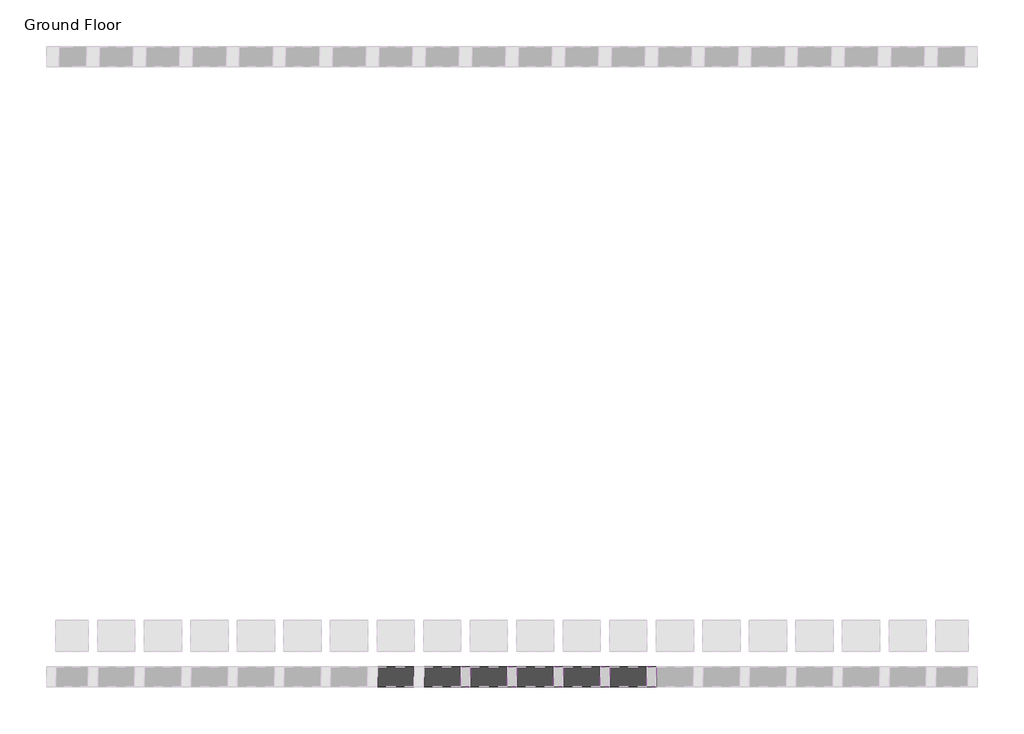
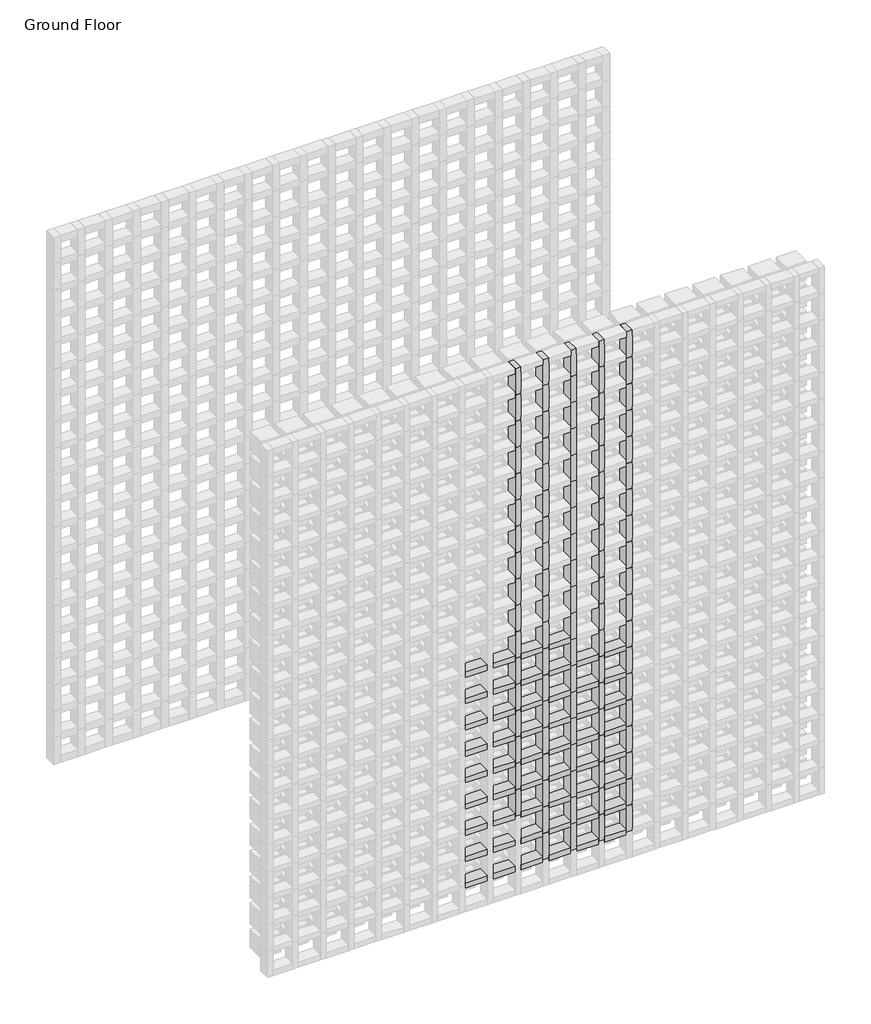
# One storey, part 78 of 350: 145 members.
"""IFC4 building model written with IfcOpenShell, lengths in millimetres."""

from ifc_helpers import new_model, si_unit, origin, place, context, project, spatial, transform, mapped, element, save
from components import rectangular_mullion_5b501421, rectangular_mullion_f28dea33

model = new_model("IFC4")

# Units and contexts
model_context = context("Model", 3, world=origin())
ifc_project = project(units=[si_unit("LENGTHUNIT", "METRE", prefix="MILLI")], contexts=[model_context])

# Site, building, storey
site = spatial("IfcSite", under=ifc_project)
building = spatial("IfcBuilding", under=site)
storey = spatial("IfcBuildingStorey", under=building, Name="Ground Floor", Elevation=0.0)

# Members
placement = place(None, origin())
rectangular_mullion_shape = rectangular_mullion_5b501421(model_context)
element("IfcMember", 1, ObjectType="Rectangular Mullion : Batten_Timber_Modinex_Austratus_Grid_Fascia_30x65_Ironbark", at=placement, inside=storey, context=model_context, shape_type="MappedRepresentation", body=[
    mapped(rectangular_mullion_shape, transform((15266.4361642, 38968.2978302, 450.0), x_axis=(1.0, 0.0, 0.0), y_axis=(0.0, -1.0, 0.0), z_axis=(0.0, 0.0, -1.0))),
])
element("IfcMember", 2, ObjectType="Rectangular Mullion : Batten_Timber_Modinex_Austratus_Grid_Fascia_30x65_Ironbark", at=placement, inside=storey, context=model_context, shape_type="MappedRepresentation", body=[
    mapped(rectangular_mullion_shape, transform((15266.4361642, 38968.2978302, 600.0), x_axis=(1.0, 0.0, 0.0), y_axis=(0.0, -1.0, 0.0), z_axis=(0.0, 0.0, -1.0))),
])
element("IfcMember", 3, ObjectType="Rectangular Mullion : Batten_Timber_Modinex_Austratus_Grid_Fascia_30x65_Ironbark", at=placement, inside=storey, context=model_context, shape_type="MappedRepresentation", body=[
    mapped(rectangular_mullion_shape, transform((15266.4361642, 38968.2978302, 750.0), x_axis=(1.0, 0.0, 0.0), y_axis=(0.0, -1.0, 0.0), z_axis=(0.0, 0.0, -1.0))),
])
element("IfcMember", 4, ObjectType="Rectangular Mullion : Batten_Timber_Modinex_Austratus_Grid_Fascia_30x65_Ironbark", at=placement, inside=storey, context=model_context, shape_type="MappedRepresentation", body=[
    mapped(rectangular_mullion_shape, transform((15266.4361642, 38968.2978302, 900.0), x_axis=(1.0, 0.0, 0.0), y_axis=(0.0, -1.0, 0.0), z_axis=(0.0, 0.0, -1.0))),
])
element("IfcMember", 5, ObjectType="Rectangular Mullion : Batten_Timber_Modinex_Austratus_Grid_Fascia_30x65_Ironbark", at=placement, inside=storey, context=model_context, shape_type="MappedRepresentation", body=[
    mapped(rectangular_mullion_shape, transform((15266.4361642, 38968.2978302, 1050.0), x_axis=(1.0, 0.0, 0.0), y_axis=(0.0, -1.0, 0.0), z_axis=(0.0, 0.0, -1.0))),
])
element("IfcMember", 6, ObjectType="Rectangular Mullion : Batten_Timber_Modinex_Austratus_Grid_Fascia_30x65_Ironbark", at=placement, inside=storey, context=model_context, shape_type="MappedRepresentation", body=[
    mapped(rectangular_mullion_shape, transform((15266.4361642, 38968.2978302, 1200.0), x_axis=(1.0, 0.0, 0.0), y_axis=(0.0, -1.0, 0.0), z_axis=(0.0, 0.0, -1.0))),
])
element("IfcMember", 7, ObjectType="Rectangular Mullion : Batten_Timber_Modinex_Austratus_Grid_Fascia_30x65_Ironbark", at=placement, inside=storey, context=model_context, shape_type="MappedRepresentation", body=[
    mapped(rectangular_mullion_shape, transform((15266.4361642, 38968.2978302, 1350.0), x_axis=(1.0, 0.0, 0.0), y_axis=(0.0, -1.0, 0.0), z_axis=(0.0, 0.0, -1.0))),
])
element("IfcMember", 8, ObjectType="Rectangular Mullion : Batten_Timber_Modinex_Austratus_Grid_Fascia_30x65_Ironbark", at=placement, inside=storey, context=model_context, shape_type="MappedRepresentation", body=[
    mapped(rectangular_mullion_shape, transform((15266.4361642, 38968.2978302, 1500.0), x_axis=(1.0, 0.0, 0.0), y_axis=(0.0, -1.0, 0.0), z_axis=(0.0, 0.0, -1.0))),
])
element("IfcMember", 9, ObjectType="Rectangular Mullion : Batten_Timber_Modinex_Austratus_Grid_Fascia_30x65_Ironbark", at=placement, inside=storey, context=model_context, shape_type="MappedRepresentation", body=[
    mapped(rectangular_mullion_shape, transform((15266.4361642, 38968.2978302, 1650.0), x_axis=(1.0, 0.0, 0.0), y_axis=(0.0, -1.0, 0.0), z_axis=(0.0, 0.0, -1.0))),
])
element("IfcMember", 10, ObjectType="Rectangular Mullion : Batten_Timber_Modinex_Austratus_Grid_Fascia_30x65_Ironbark", at=placement, inside=storey, context=model_context, shape_type="MappedRepresentation", body=[
    mapped(rectangular_mullion_shape, transform((15266.4361642, 38968.2978302, 1800.0), x_axis=(1.0, 0.0, 0.0), y_axis=(0.0, -1.0, 0.0), z_axis=(0.0, 0.0, -1.0))),
])
element("IfcMember", 11, ObjectType="Rectangular Mullion : Batten_Timber_Modinex_Austratus_Grid_Fascia_30x65_Ironbark", at=placement, inside=storey, context=model_context, shape_type="MappedRepresentation", body=[
    mapped(rectangular_mullion_shape, transform((15266.4361642, 38968.2978302, 1950.0), x_axis=(1.0, 0.0, 0.0), y_axis=(0.0, -1.0, 0.0), z_axis=(0.0, 0.0, -1.0))),
])
element("IfcMember", 12, ObjectType="Rectangular Mullion : Batten_Timber_Modinex_Austratus_Grid_Fascia_30x65_Ironbark", at=placement, inside=storey, context=model_context, shape_type="MappedRepresentation", body=[
    mapped(rectangular_mullion_shape, transform((15266.4361642, 38968.2978302, 2100.0), x_axis=(1.0, 0.0, 0.0), y_axis=(0.0, -1.0, 0.0), z_axis=(0.0, 0.0, -1.0))),
])
element("IfcMember", 13, ObjectType="Rectangular Mullion : Batten_Timber_Modinex_Austratus_Grid_Fascia_30x65_Ironbark", at=placement, inside=storey, context=model_context, shape_type="MappedRepresentation", body=[
    mapped(rectangular_mullion_shape, transform((15266.4361642, 38968.2978302, 2250.0), x_axis=(1.0, 0.0, 0.0), y_axis=(0.0, -1.0, 0.0), z_axis=(0.0, 0.0, -1.0))),
])
element("IfcMember", 14, ObjectType="Rectangular Mullion : Batten_Timber_Modinex_Austratus_Grid_Fascia_30x65_Ironbark", at=placement, inside=storey, context=model_context, shape_type="MappedRepresentation", body=[
    mapped(rectangular_mullion_shape, transform((15266.4361642, 38968.2978302, 2400.0), x_axis=(1.0, 0.0, 0.0), y_axis=(0.0, -1.0, 0.0), z_axis=(0.0, 0.0, -1.0))),
])
element("IfcMember", 15, ObjectType="Rectangular Mullion : Batten_Timber_Modinex_Austratus_Grid_Fascia_30x65_Ironbark", at=placement, inside=storey, context=model_context, shape_type="MappedRepresentation", body=[
    mapped(rectangular_mullion_shape, transform((15266.4361642, 38968.2978302, 2550.0), x_axis=(1.0, 0.0, 0.0), y_axis=(0.0, -1.0, 0.0), z_axis=(0.0, 0.0, -1.0))),
])
element("IfcMember", 16, ObjectType="Rectangular Mullion : Batten_Timber_Modinex_Austratus_Grid_Fascia_30x65_Ironbark", at=placement, inside=storey, context=model_context, shape_type="MappedRepresentation", body=[
    mapped(rectangular_mullion_shape, transform((15266.4361642, 38968.2978302, 2700.0), x_axis=(1.0, 0.0, 0.0), y_axis=(0.0, -1.0, 0.0), z_axis=(0.0, 0.0, -1.0))),
])
element("IfcMember", 17, ObjectType="Rectangular Mullion : Batten_Timber_Modinex_Austratus_Grid_Fascia_30x65_Ironbark", at=placement, inside=storey, context=model_context, shape_type="MappedRepresentation", body=[
    mapped(rectangular_mullion_shape, transform((15416.4361642, 38968.2978302, 150.0), x_axis=(1.0, 0.0, 0.0), y_axis=(0.0, -1.0, 0.0), z_axis=(0.0, 0.0, -1.0))),
])
element("IfcMember", 18, ObjectType="Rectangular Mullion : Batten_Timber_Modinex_Austratus_Grid_Fascia_30x65_Ironbark", at=placement, inside=storey, context=model_context, shape_type="MappedRepresentation", body=[
    mapped(rectangular_mullion_shape, transform((15416.4361642, 38968.2978302, 300.0), x_axis=(1.0, 0.0, 0.0), y_axis=(0.0, -1.0, 0.0), z_axis=(0.0, 0.0, -1.0))),
])
element("IfcMember", 19, ObjectType="Rectangular Mullion : Batten_Timber_Modinex_Austratus_Grid_Fascia_30x65_Ironbark", at=placement, inside=storey, context=model_context, shape_type="MappedRepresentation", body=[
    mapped(rectangular_mullion_shape, transform((15416.4361642, 38968.2978302, 450.0), x_axis=(1.0, 0.0, 0.0), y_axis=(0.0, -1.0, 0.0), z_axis=(0.0, 0.0, -1.0))),
])
element("IfcMember", 20, ObjectType="Rectangular Mullion : Batten_Timber_Modinex_Austratus_Grid_Fascia_30x65_Ironbark", at=placement, inside=storey, context=model_context, shape_type="MappedRepresentation", body=[
    mapped(rectangular_mullion_shape, transform((15416.4361642, 38968.2978302, 600.0), x_axis=(1.0, 0.0, 0.0), y_axis=(0.0, -1.0, 0.0), z_axis=(0.0, 0.0, -1.0))),
])
element("IfcMember", 21, ObjectType="Rectangular Mullion : Batten_Timber_Modinex_Austratus_Grid_Fascia_30x65_Ironbark", at=placement, inside=storey, context=model_context, shape_type="MappedRepresentation", body=[
    mapped(rectangular_mullion_shape, transform((15416.4361642, 38968.2978302, 750.0), x_axis=(1.0, 0.0, 0.0), y_axis=(0.0, -1.0, 0.0), z_axis=(0.0, 0.0, -1.0))),
])
element("IfcMember", 22, ObjectType="Rectangular Mullion : Batten_Timber_Modinex_Austratus_Grid_Fascia_30x65_Ironbark", at=placement, inside=storey, context=model_context, shape_type="MappedRepresentation", body=[
    mapped(rectangular_mullion_shape, transform((15416.4361642, 38968.2978302, 900.0), x_axis=(1.0, 0.0, 0.0), y_axis=(0.0, -1.0, 0.0), z_axis=(0.0, 0.0, -1.0))),
])
element("IfcMember", 23, ObjectType="Rectangular Mullion : Batten_Timber_Modinex_Austratus_Grid_Fascia_30x65_Ironbark", at=placement, inside=storey, context=model_context, shape_type="MappedRepresentation", body=[
    mapped(rectangular_mullion_shape, transform((15416.4361642, 38968.2978302, 1050.0), x_axis=(1.0, 0.0, 0.0), y_axis=(0.0, -1.0, 0.0), z_axis=(0.0, 0.0, -1.0))),
])
element("IfcMember", 24, ObjectType="Rectangular Mullion : Batten_Timber_Modinex_Austratus_Grid_Fascia_30x65_Ironbark", at=placement, inside=storey, context=model_context, shape_type="MappedRepresentation", body=[
    mapped(rectangular_mullion_shape, transform((15416.4361642, 38968.2978302, 1200.0), x_axis=(1.0, 0.0, 0.0), y_axis=(0.0, -1.0, 0.0), z_axis=(0.0, 0.0, -1.0))),
])
element("IfcMember", 25, ObjectType="Rectangular Mullion : Batten_Timber_Modinex_Austratus_Grid_Fascia_30x65_Ironbark", at=placement, inside=storey, context=model_context, shape_type="MappedRepresentation", body=[
    mapped(rectangular_mullion_shape, transform((15416.4361642, 38968.2978302, 1350.0), x_axis=(1.0, 0.0, 0.0), y_axis=(0.0, -1.0, 0.0), z_axis=(0.0, 0.0, -1.0))),
])
element("IfcMember", 26, ObjectType="Rectangular Mullion : Batten_Timber_Modinex_Austratus_Grid_Fascia_30x65_Ironbark", at=placement, inside=storey, context=model_context, shape_type="MappedRepresentation", body=[
    mapped(rectangular_mullion_shape, transform((15416.4361642, 38968.2978302, 1500.0), x_axis=(1.0, 0.0, 0.0), y_axis=(0.0, -1.0, 0.0), z_axis=(0.0, 0.0, -1.0))),
])
element("IfcMember", 27, ObjectType="Rectangular Mullion : Batten_Timber_Modinex_Austratus_Grid_Fascia_30x65_Ironbark", at=placement, inside=storey, context=model_context, shape_type="MappedRepresentation", body=[
    mapped(rectangular_mullion_shape, transform((15416.4361642, 38968.2978302, 1650.0), x_axis=(1.0, 0.0, 0.0), y_axis=(0.0, -1.0, 0.0), z_axis=(0.0, 0.0, -1.0))),
])
element("IfcMember", 28, ObjectType="Rectangular Mullion : Batten_Timber_Modinex_Austratus_Grid_Fascia_30x65_Ironbark", at=placement, inside=storey, context=model_context, shape_type="MappedRepresentation", body=[
    mapped(rectangular_mullion_shape, transform((15416.4361642, 38968.2978302, 1800.0), x_axis=(1.0, 0.0, 0.0), y_axis=(0.0, -1.0, 0.0), z_axis=(0.0, 0.0, -1.0))),
])
element("IfcMember", 29, ObjectType="Rectangular Mullion : Batten_Timber_Modinex_Austratus_Grid_Fascia_30x65_Ironbark", at=placement, inside=storey, context=model_context, shape_type="MappedRepresentation", body=[
    mapped(rectangular_mullion_shape, transform((15416.4361642, 38968.2978302, 1950.0), x_axis=(1.0, 0.0, 0.0), y_axis=(0.0, -1.0, 0.0), z_axis=(0.0, 0.0, -1.0))),
])
element("IfcMember", 30, ObjectType="Rectangular Mullion : Batten_Timber_Modinex_Austratus_Grid_Fascia_30x65_Ironbark", at=placement, inside=storey, context=model_context, shape_type="MappedRepresentation", body=[
    mapped(rectangular_mullion_shape, transform((15416.4361642, 38968.2978302, 2100.0), x_axis=(1.0, 0.0, 0.0), y_axis=(0.0, -1.0, 0.0), z_axis=(0.0, 0.0, -1.0))),
])
element("IfcMember", 31, ObjectType="Rectangular Mullion : Batten_Timber_Modinex_Austratus_Grid_Fascia_30x65_Ironbark", at=placement, inside=storey, context=model_context, shape_type="MappedRepresentation", body=[
    mapped(rectangular_mullion_shape, transform((15416.4361642, 38968.2978302, 2250.0), x_axis=(1.0, 0.0, 0.0), y_axis=(0.0, -1.0, 0.0), z_axis=(0.0, 0.0, -1.0))),
])
element("IfcMember", 32, ObjectType="Rectangular Mullion : Batten_Timber_Modinex_Austratus_Grid_Fascia_30x65_Ironbark", at=placement, inside=storey, context=model_context, shape_type="MappedRepresentation", body=[
    mapped(rectangular_mullion_shape, transform((15416.4361642, 38968.2978302, 2400.0), x_axis=(1.0, 0.0, 0.0), y_axis=(0.0, -1.0, 0.0), z_axis=(0.0, 0.0, -1.0))),
])
element("IfcMember", 33, ObjectType="Rectangular Mullion : Batten_Timber_Modinex_Austratus_Grid_Fascia_30x65_Ironbark", at=placement, inside=storey, context=model_context, shape_type="MappedRepresentation", body=[
    mapped(rectangular_mullion_shape, transform((15416.4361642, 38968.2978302, 2550.0), x_axis=(1.0, 0.0, 0.0), y_axis=(0.0, -1.0, 0.0), z_axis=(0.0, 0.0, -1.0))),
])
element("IfcMember", 34, ObjectType="Rectangular Mullion : Batten_Timber_Modinex_Austratus_Grid_Fascia_30x65_Ironbark", at=placement, inside=storey, context=model_context, shape_type="MappedRepresentation", body=[
    mapped(rectangular_mullion_shape, transform((15416.4361642, 38968.2978302, 2700.0), x_axis=(1.0, 0.0, 0.0), y_axis=(0.0, -1.0, 0.0), z_axis=(0.0, 0.0, -1.0))),
])
element("IfcMember", 35, ObjectType="Rectangular Mullion : Batten_Timber_Modinex_Austratus_Grid_Fascia_30x65_Ironbark", at=placement, inside=storey, context=model_context, shape_type="MappedRepresentation", body=[
    mapped(rectangular_mullion_shape, transform((15566.4361642, 38968.2978302, 150.0), x_axis=(1.0, 0.0, 0.0), y_axis=(0.0, -1.0, 0.0), z_axis=(0.0, 0.0, -1.0))),
])
element("IfcMember", 36, ObjectType="Rectangular Mullion : Batten_Timber_Modinex_Austratus_Grid_Fascia_30x65_Ironbark", at=placement, inside=storey, context=model_context, shape_type="MappedRepresentation", body=[
    mapped(rectangular_mullion_shape, transform((15566.4361642, 38968.2978302, 300.0), x_axis=(1.0, 0.0, 0.0), y_axis=(0.0, -1.0, 0.0), z_axis=(0.0, 0.0, -1.0))),
])
element("IfcMember", 37, ObjectType="Rectangular Mullion : Batten_Timber_Modinex_Austratus_Grid_Fascia_30x65_Ironbark", at=placement, inside=storey, context=model_context, shape_type="MappedRepresentation", body=[
    mapped(rectangular_mullion_shape, transform((15566.4361642, 38968.2978302, 450.0), x_axis=(1.0, 0.0, 0.0), y_axis=(0.0, -1.0, 0.0), z_axis=(0.0, 0.0, -1.0))),
])
element("IfcMember", 38, ObjectType="Rectangular Mullion : Batten_Timber_Modinex_Austratus_Grid_Fascia_30x65_Ironbark", at=placement, inside=storey, context=model_context, shape_type="MappedRepresentation", body=[
    mapped(rectangular_mullion_shape, transform((15566.4361642, 38968.2978302, 600.0), x_axis=(1.0, 0.0, 0.0), y_axis=(0.0, -1.0, 0.0), z_axis=(0.0, 0.0, -1.0))),
])
element("IfcMember", 39, ObjectType="Rectangular Mullion : Batten_Timber_Modinex_Austratus_Grid_Fascia_30x65_Ironbark", at=placement, inside=storey, context=model_context, shape_type="MappedRepresentation", body=[
    mapped(rectangular_mullion_shape, transform((15566.4361642, 38968.2978302, 750.0), x_axis=(1.0, 0.0, 0.0), y_axis=(0.0, -1.0, 0.0), z_axis=(0.0, 0.0, -1.0))),
])
element("IfcMember", 40, ObjectType="Rectangular Mullion : Batten_Timber_Modinex_Austratus_Grid_Fascia_30x65_Ironbark", at=placement, inside=storey, context=model_context, shape_type="MappedRepresentation", body=[
    mapped(rectangular_mullion_shape, transform((15566.4361642, 38968.2978302, 900.0), x_axis=(1.0, 0.0, 0.0), y_axis=(0.0, -1.0, 0.0), z_axis=(0.0, 0.0, -1.0))),
])
element("IfcMember", 41, ObjectType="Rectangular Mullion : Batten_Timber_Modinex_Austratus_Grid_Fascia_30x65_Ironbark", at=placement, inside=storey, context=model_context, shape_type="MappedRepresentation", body=[
    mapped(rectangular_mullion_shape, transform((15566.4361642, 38968.2978302, 1050.0), x_axis=(1.0, 0.0, 0.0), y_axis=(0.0, -1.0, 0.0), z_axis=(0.0, 0.0, -1.0))),
])
element("IfcMember", 42, ObjectType="Rectangular Mullion : Batten_Timber_Modinex_Austratus_Grid_Fascia_30x65_Ironbark", at=placement, inside=storey, context=model_context, shape_type="MappedRepresentation", body=[
    mapped(rectangular_mullion_shape, transform((15566.4361642, 38968.2978302, 1200.0), x_axis=(1.0, 0.0, 0.0), y_axis=(0.0, -1.0, 0.0), z_axis=(0.0, 0.0, -1.0))),
])
element("IfcMember", 43, ObjectType="Rectangular Mullion : Batten_Timber_Modinex_Austratus_Grid_Fascia_30x65_Ironbark", at=placement, inside=storey, context=model_context, shape_type="MappedRepresentation", body=[
    mapped(rectangular_mullion_shape, transform((15566.4361642, 38968.2978302, 1350.0), x_axis=(1.0, 0.0, 0.0), y_axis=(0.0, -1.0, 0.0), z_axis=(0.0, 0.0, -1.0))),
])
element("IfcMember", 44, ObjectType="Rectangular Mullion : Batten_Timber_Modinex_Austratus_Grid_Fascia_30x65_Ironbark", at=placement, inside=storey, context=model_context, shape_type="MappedRepresentation", body=[
    mapped(rectangular_mullion_shape, transform((15566.4361642, 38968.2978302, 1500.0), x_axis=(1.0, 0.0, 0.0), y_axis=(0.0, -1.0, 0.0), z_axis=(0.0, 0.0, -1.0))),
])
element("IfcMember", 45, ObjectType="Rectangular Mullion : Batten_Timber_Modinex_Austratus_Grid_Fascia_30x65_Ironbark", at=placement, inside=storey, context=model_context, shape_type="MappedRepresentation", body=[
    mapped(rectangular_mullion_shape, transform((15566.4361642, 38968.2978302, 1650.0), x_axis=(1.0, 0.0, 0.0), y_axis=(0.0, -1.0, 0.0), z_axis=(0.0, 0.0, -1.0))),
])
element("IfcMember", 46, ObjectType="Rectangular Mullion : Batten_Timber_Modinex_Austratus_Grid_Fascia_30x65_Ironbark", at=placement, inside=storey, context=model_context, shape_type="MappedRepresentation", body=[
    mapped(rectangular_mullion_shape, transform((15566.4361642, 38968.2978302, 1800.0), x_axis=(1.0, 0.0, 0.0), y_axis=(0.0, -1.0, 0.0), z_axis=(0.0, 0.0, -1.0))),
])
element("IfcMember", 47, ObjectType="Rectangular Mullion : Batten_Timber_Modinex_Austratus_Grid_Fascia_30x65_Ironbark", at=placement, inside=storey, context=model_context, shape_type="MappedRepresentation", body=[
    mapped(rectangular_mullion_shape, transform((15566.4361642, 38968.2978302, 1950.0), x_axis=(1.0, 0.0, 0.0), y_axis=(0.0, -1.0, 0.0), z_axis=(0.0, 0.0, -1.0))),
])
element("IfcMember", 48, ObjectType="Rectangular Mullion : Batten_Timber_Modinex_Austratus_Grid_Fascia_30x65_Ironbark", at=placement, inside=storey, context=model_context, shape_type="MappedRepresentation", body=[
    mapped(rectangular_mullion_shape, transform((15566.4361642, 38968.2978302, 2100.0), x_axis=(1.0, 0.0, 0.0), y_axis=(0.0, -1.0, 0.0), z_axis=(0.0, 0.0, -1.0))),
])
element("IfcMember", 49, ObjectType="Rectangular Mullion : Batten_Timber_Modinex_Austratus_Grid_Fascia_30x65_Ironbark", at=placement, inside=storey, context=model_context, shape_type="MappedRepresentation", body=[
    mapped(rectangular_mullion_shape, transform((15566.4361642, 38968.2978302, 2250.0), x_axis=(1.0, 0.0, 0.0), y_axis=(0.0, -1.0, 0.0), z_axis=(0.0, 0.0, -1.0))),
])
element("IfcMember", 50, ObjectType="Rectangular Mullion : Batten_Timber_Modinex_Austratus_Grid_Fascia_30x65_Ironbark", at=placement, inside=storey, context=model_context, shape_type="MappedRepresentation", body=[
    mapped(rectangular_mullion_shape, transform((15566.4361642, 38968.2978302, 2400.0), x_axis=(1.0, 0.0, 0.0), y_axis=(0.0, -1.0, 0.0), z_axis=(0.0, 0.0, -1.0))),
])
element("IfcMember", 51, ObjectType="Rectangular Mullion : Batten_Timber_Modinex_Austratus_Grid_Fascia_30x65_Ironbark", at=placement, inside=storey, context=model_context, shape_type="MappedRepresentation", body=[
    mapped(rectangular_mullion_shape, transform((15566.4361642, 38968.2978302, 2550.0), x_axis=(1.0, 0.0, 0.0), y_axis=(0.0, -1.0, 0.0), z_axis=(0.0, 0.0, -1.0))),
])
element("IfcMember", 52, ObjectType="Rectangular Mullion : Batten_Timber_Modinex_Austratus_Grid_Fascia_30x65_Ironbark", at=placement, inside=storey, context=model_context, shape_type="MappedRepresentation", body=[
    mapped(rectangular_mullion_shape, transform((15566.4361642, 38968.2978302, 2700.0), x_axis=(1.0, 0.0, 0.0), y_axis=(0.0, -1.0, 0.0), z_axis=(0.0, 0.0, -1.0))),
])
element("IfcMember", 53, ObjectType="Rectangular Mullion : Batten_Timber_Modinex_Austratus_Grid_Fascia_30x65_Ironbark", at=placement, inside=storey, context=model_context, shape_type="MappedRepresentation", body=[
    mapped(rectangular_mullion_shape, transform((15716.4361642, 38968.2978302, 150.0), x_axis=(1.0, 0.0, 0.0), y_axis=(0.0, -1.0, 0.0), z_axis=(0.0, 0.0, -1.0))),
])
element("IfcMember", 54, ObjectType="Rectangular Mullion : Batten_Timber_Modinex_Austratus_Grid_Fascia_30x65_Ironbark", at=placement, inside=storey, context=model_context, shape_type="MappedRepresentation", body=[
    mapped(rectangular_mullion_shape, transform((15716.4361642, 38968.2978302, 300.0), x_axis=(1.0, 0.0, 0.0), y_axis=(0.0, -1.0, 0.0), z_axis=(0.0, 0.0, -1.0))),
])
element("IfcMember", 55, ObjectType="Rectangular Mullion : Batten_Timber_Modinex_Austratus_Grid_Fascia_30x65_Ironbark", at=placement, inside=storey, context=model_context, shape_type="MappedRepresentation", body=[
    mapped(rectangular_mullion_shape, transform((15716.4361642, 38968.2978302, 450.0), x_axis=(1.0, 0.0, 0.0), y_axis=(0.0, -1.0, 0.0), z_axis=(0.0, 0.0, -1.0))),
])
element("IfcMember", 56, ObjectType="Rectangular Mullion : Batten_Timber_Modinex_Austratus_Grid_Fascia_30x65_Ironbark", at=placement, inside=storey, context=model_context, shape_type="MappedRepresentation", body=[
    mapped(rectangular_mullion_shape, transform((15716.4361642, 38968.2978302, 600.0), x_axis=(1.0, 0.0, 0.0), y_axis=(0.0, -1.0, 0.0), z_axis=(0.0, 0.0, -1.0))),
])
element("IfcMember", 57, ObjectType="Rectangular Mullion : Batten_Timber_Modinex_Austratus_Grid_Fascia_30x65_Ironbark", at=placement, inside=storey, context=model_context, shape_type="MappedRepresentation", body=[
    mapped(rectangular_mullion_shape, transform((15716.4361642, 38968.2978302, 750.0), x_axis=(1.0, 0.0, 0.0), y_axis=(0.0, -1.0, 0.0), z_axis=(0.0, 0.0, -1.0))),
])
element("IfcMember", 58, ObjectType="Rectangular Mullion : Batten_Timber_Modinex_Austratus_Grid_Fascia_30x65_Ironbark", at=placement, inside=storey, context=model_context, shape_type="MappedRepresentation", body=[
    mapped(rectangular_mullion_shape, transform((15716.4361642, 38968.2978302, 900.0), x_axis=(1.0, 0.0, 0.0), y_axis=(0.0, -1.0, 0.0), z_axis=(0.0, 0.0, -1.0))),
])
element("IfcMember", 59, ObjectType="Rectangular Mullion : Batten_Timber_Modinex_Austratus_Grid_Fascia_30x65_Ironbark", at=placement, inside=storey, context=model_context, shape_type="MappedRepresentation", body=[
    mapped(rectangular_mullion_shape, transform((15716.4361642, 38968.2978302, 1050.0), x_axis=(1.0, 0.0, 0.0), y_axis=(0.0, -1.0, 0.0), z_axis=(0.0, 0.0, -1.0))),
])
element("IfcMember", 60, ObjectType="Rectangular Mullion : Batten_Timber_Modinex_Austratus_Grid_Fascia_30x65_Ironbark", at=placement, inside=storey, context=model_context, shape_type="MappedRepresentation", body=[
    mapped(rectangular_mullion_shape, transform((15716.4361642, 38968.2978302, 1200.0), x_axis=(1.0, 0.0, 0.0), y_axis=(0.0, -1.0, 0.0), z_axis=(0.0, 0.0, -1.0))),
])
element("IfcMember", 61, ObjectType="Rectangular Mullion : Batten_Timber_Modinex_Austratus_Grid_Fascia_30x65_Ironbark", at=placement, inside=storey, context=model_context, shape_type="MappedRepresentation", body=[
    mapped(rectangular_mullion_shape, transform((15716.4361642, 38968.2978302, 1350.0), x_axis=(1.0, 0.0, 0.0), y_axis=(0.0, -1.0, 0.0), z_axis=(0.0, 0.0, -1.0))),
])
element("IfcMember", 62, ObjectType="Rectangular Mullion : Batten_Timber_Modinex_Austratus_Grid_Fascia_30x65_Ironbark", at=placement, inside=storey, context=model_context, shape_type="MappedRepresentation", body=[
    mapped(rectangular_mullion_shape, transform((15716.4361642, 38968.2978302, 1500.0), x_axis=(1.0, 0.0, 0.0), y_axis=(0.0, -1.0, 0.0), z_axis=(0.0, 0.0, -1.0))),
])
element("IfcMember", 63, ObjectType="Rectangular Mullion : Batten_Timber_Modinex_Austratus_Grid_Fascia_30x65_Ironbark", at=placement, inside=storey, context=model_context, shape_type="MappedRepresentation", body=[
    mapped(rectangular_mullion_shape, transform((15716.4361642, 38968.2978302, 1650.0), x_axis=(1.0, 0.0, 0.0), y_axis=(0.0, -1.0, 0.0), z_axis=(0.0, 0.0, -1.0))),
])
element("IfcMember", 64, ObjectType="Rectangular Mullion : Batten_Timber_Modinex_Austratus_Grid_Fascia_30x65_Ironbark", at=placement, inside=storey, context=model_context, shape_type="MappedRepresentation", body=[
    mapped(rectangular_mullion_shape, transform((15716.4361642, 38968.2978302, 1800.0), x_axis=(1.0, 0.0, 0.0), y_axis=(0.0, -1.0, 0.0), z_axis=(0.0, 0.0, -1.0))),
])
element("IfcMember", 65, ObjectType="Rectangular Mullion : Batten_Timber_Modinex_Austratus_Grid_Fascia_30x65_Ironbark", at=placement, inside=storey, context=model_context, shape_type="MappedRepresentation", body=[
    mapped(rectangular_mullion_shape, transform((15716.4361642, 38968.2978302, 1950.0), x_axis=(1.0, 0.0, 0.0), y_axis=(0.0, -1.0, 0.0), z_axis=(0.0, 0.0, -1.0))),
])
element("IfcMember", 66, ObjectType="Rectangular Mullion : Batten_Timber_Modinex_Austratus_Grid_Fascia_30x65_Ironbark", at=placement, inside=storey, context=model_context, shape_type="MappedRepresentation", body=[
    mapped(rectangular_mullion_shape, transform((15716.4361642, 38968.2978302, 2100.0), x_axis=(1.0, 0.0, 0.0), y_axis=(0.0, -1.0, 0.0), z_axis=(0.0, 0.0, -1.0))),
])
element("IfcMember", 67, ObjectType="Rectangular Mullion : Batten_Timber_Modinex_Austratus_Grid_Fascia_30x65_Ironbark", at=placement, inside=storey, context=model_context, shape_type="MappedRepresentation", body=[
    mapped(rectangular_mullion_shape, transform((15716.4361642, 38968.2978302, 2250.0), x_axis=(1.0, 0.0, 0.0), y_axis=(0.0, -1.0, 0.0), z_axis=(0.0, 0.0, -1.0))),
])
element("IfcMember", 68, ObjectType="Rectangular Mullion : Batten_Timber_Modinex_Austratus_Grid_Fascia_30x65_Ironbark", at=placement, inside=storey, context=model_context, shape_type="MappedRepresentation", body=[
    mapped(rectangular_mullion_shape, transform((15716.4361642, 38968.2978302, 2400.0), x_axis=(1.0, 0.0, 0.0), y_axis=(0.0, -1.0, 0.0), z_axis=(0.0, 0.0, -1.0))),
])
element("IfcMember", 69, ObjectType="Rectangular Mullion : Batten_Timber_Modinex_Austratus_Grid_Fascia_30x65_Ironbark", at=placement, inside=storey, context=model_context, shape_type="MappedRepresentation", body=[
    mapped(rectangular_mullion_shape, transform((15716.4361642, 38968.2978302, 2550.0), x_axis=(1.0, 0.0, 0.0), y_axis=(0.0, -1.0, 0.0), z_axis=(0.0, 0.0, -1.0))),
])
element("IfcMember", 70, ObjectType="Rectangular Mullion : Batten_Timber_Modinex_Austratus_Grid_Fascia_30x65_Ironbark", at=placement, inside=storey, context=model_context, shape_type="MappedRepresentation", body=[
    mapped(rectangular_mullion_shape, transform((15716.4361642, 38968.2978302, 2700.0), x_axis=(1.0, 0.0, 0.0), y_axis=(0.0, -1.0, 0.0), z_axis=(0.0, 0.0, -1.0))),
])
element("IfcMember", 71, ObjectType="Rectangular Mullion : Batten_Timber_Modinex_Austratus_Grid_Fascia_30x65_Ironbark", at=placement, inside=storey, context=model_context, shape_type="MappedRepresentation", body=[
    mapped(rectangular_mullion_shape, transform((15866.4361642, 38968.2978302, 150.0), x_axis=(1.0, 0.0, 0.0), y_axis=(0.0, -1.0, 0.0), z_axis=(0.0, 0.0, -1.0))),
])
element("IfcMember", 72, ObjectType="Rectangular Mullion : Batten_Timber_Modinex_Austratus_Grid_Fascia_30x65_Ironbark", at=placement, inside=storey, context=model_context, shape_type="MappedRepresentation", body=[
    mapped(rectangular_mullion_shape, transform((15866.4361642, 38968.2978302, 300.0), x_axis=(1.0, 0.0, 0.0), y_axis=(0.0, -1.0, 0.0), z_axis=(0.0, 0.0, -1.0))),
])
element("IfcMember", 73, ObjectType="Rectangular Mullion : Batten_Timber_Modinex_Austratus_Grid_Fascia_30x65_Ironbark", at=placement, inside=storey, context=model_context, shape_type="MappedRepresentation", body=[
    mapped(rectangular_mullion_shape, transform((15866.4361642, 38968.2978302, 450.0), x_axis=(1.0, 0.0, 0.0), y_axis=(0.0, -1.0, 0.0), z_axis=(0.0, 0.0, -1.0))),
])
element("IfcMember", 74, ObjectType="Rectangular Mullion : Batten_Timber_Modinex_Austratus_Grid_Fascia_30x65_Ironbark", at=placement, inside=storey, context=model_context, shape_type="MappedRepresentation", body=[
    mapped(rectangular_mullion_shape, transform((15866.4361642, 38968.2978302, 600.0), x_axis=(1.0, 0.0, 0.0), y_axis=(0.0, -1.0, 0.0), z_axis=(0.0, 0.0, -1.0))),
])
element("IfcMember", 75, ObjectType="Rectangular Mullion : Batten_Timber_Modinex_Austratus_Grid_Fascia_30x65_Ironbark", at=placement, inside=storey, context=model_context, shape_type="MappedRepresentation", body=[
    mapped(rectangular_mullion_shape, transform((15866.4361642, 38968.2978302, 750.0), x_axis=(1.0, 0.0, 0.0), y_axis=(0.0, -1.0, 0.0), z_axis=(0.0, 0.0, -1.0))),
])
element("IfcMember", 76, ObjectType="Rectangular Mullion : Batten_Timber_Modinex_Austratus_Grid_Fascia_30x65_Ironbark", at=placement, inside=storey, context=model_context, shape_type="MappedRepresentation", body=[
    mapped(rectangular_mullion_shape, transform((15866.4361642, 38968.2978302, 900.0), x_axis=(1.0, 0.0, 0.0), y_axis=(0.0, -1.0, 0.0), z_axis=(0.0, 0.0, -1.0))),
])
element("IfcMember", 77, ObjectType="Rectangular Mullion : Batten_Timber_Modinex_Austratus_Grid_Fascia_30x65_Ironbark", at=placement, inside=storey, context=model_context, shape_type="MappedRepresentation", body=[
    mapped(rectangular_mullion_shape, transform((15866.4361642, 38968.2978302, 1050.0), x_axis=(1.0, 0.0, 0.0), y_axis=(0.0, -1.0, 0.0), z_axis=(0.0, 0.0, -1.0))),
])
element("IfcMember", 78, ObjectType="Rectangular Mullion : Batten_Timber_Modinex_Austratus_Grid_Fascia_30x65_Ironbark", at=placement, inside=storey, context=model_context, shape_type="MappedRepresentation", body=[
    mapped(rectangular_mullion_shape, transform((15866.4361642, 38968.2978302, 1200.0), x_axis=(1.0, 0.0, 0.0), y_axis=(0.0, -1.0, 0.0), z_axis=(0.0, 0.0, -1.0))),
])
element("IfcMember", 79, ObjectType="Rectangular Mullion : Batten_Timber_Modinex_Austratus_Grid_Fascia_30x65_Ironbark", at=placement, inside=storey, context=model_context, shape_type="MappedRepresentation", body=[
    mapped(rectangular_mullion_shape, transform((15866.4361642, 38968.2978302, 1350.0), x_axis=(1.0, 0.0, 0.0), y_axis=(0.0, -1.0, 0.0), z_axis=(0.0, 0.0, -1.0))),
])
element("IfcMember", 80, ObjectType="Rectangular Mullion : Batten_Timber_Modinex_Austratus_Grid_Fascia_30x65_Ironbark", at=placement, inside=storey, context=model_context, shape_type="MappedRepresentation", body=[
    mapped(rectangular_mullion_shape, transform((15866.4361642, 38968.2978302, 1500.0), x_axis=(1.0, 0.0, 0.0), y_axis=(0.0, -1.0, 0.0), z_axis=(0.0, 0.0, -1.0))),
])
element("IfcMember", 81, ObjectType="Rectangular Mullion : Batten_Timber_Modinex_Austratus_Grid_Fascia_30x65_Ironbark", at=placement, inside=storey, context=model_context, shape_type="MappedRepresentation", body=[
    mapped(rectangular_mullion_shape, transform((15866.4361642, 38968.2978302, 1650.0), x_axis=(1.0, 0.0, 0.0), y_axis=(0.0, -1.0, 0.0), z_axis=(0.0, 0.0, -1.0))),
])
element("IfcMember", 82, ObjectType="Rectangular Mullion : Batten_Timber_Modinex_Austratus_Grid_Fascia_30x65_Ironbark", at=placement, inside=storey, context=model_context, shape_type="MappedRepresentation", body=[
    mapped(rectangular_mullion_shape, transform((15866.4361642, 38968.2978302, 1800.0), x_axis=(1.0, 0.0, 0.0), y_axis=(0.0, -1.0, 0.0), z_axis=(0.0, 0.0, -1.0))),
])
element("IfcMember", 83, ObjectType="Rectangular Mullion : Batten_Timber_Modinex_Austratus_Grid_Fascia_30x65_Ironbark", at=placement, inside=storey, context=model_context, shape_type="MappedRepresentation", body=[
    mapped(rectangular_mullion_shape, transform((15866.4361642, 38968.2978302, 1950.0), x_axis=(1.0, 0.0, 0.0), y_axis=(0.0, -1.0, 0.0), z_axis=(0.0, 0.0, -1.0))),
])
element("IfcMember", 84, ObjectType="Rectangular Mullion : Batten_Timber_Modinex_Austratus_Grid_Fascia_30x65_Ironbark", at=placement, inside=storey, context=model_context, shape_type="MappedRepresentation", body=[
    mapped(rectangular_mullion_shape, transform((15866.4361642, 38968.2978302, 2100.0), x_axis=(1.0, 0.0, 0.0), y_axis=(0.0, -1.0, 0.0), z_axis=(0.0, 0.0, -1.0))),
])
element("IfcMember", 85, ObjectType="Rectangular Mullion : Batten_Timber_Modinex_Austratus_Grid_Fascia_30x65_Ironbark", at=placement, inside=storey, context=model_context, shape_type="MappedRepresentation", body=[
    mapped(rectangular_mullion_shape, transform((15866.4361642, 38968.2978302, 2250.0), x_axis=(1.0, 0.0, 0.0), y_axis=(0.0, -1.0, 0.0), z_axis=(0.0, 0.0, -1.0))),
])
element("IfcMember", 86, ObjectType="Rectangular Mullion : Batten_Timber_Modinex_Austratus_Grid_Fascia_30x65_Ironbark", at=placement, inside=storey, context=model_context, shape_type="MappedRepresentation", body=[
    mapped(rectangular_mullion_shape, transform((15866.4361642, 38968.2978302, 2400.0), x_axis=(1.0, 0.0, 0.0), y_axis=(0.0, -1.0, 0.0), z_axis=(0.0, 0.0, -1.0))),
])
element("IfcMember", 87, ObjectType="Rectangular Mullion : Batten_Timber_Modinex_Austratus_Grid_Fascia_30x65_Ironbark", at=placement, inside=storey, context=model_context, shape_type="MappedRepresentation", body=[
    mapped(rectangular_mullion_shape, transform((15866.4361642, 38968.2978302, 2550.0), x_axis=(1.0, 0.0, 0.0), y_axis=(0.0, -1.0, 0.0), z_axis=(0.0, 0.0, -1.0))),
])
element("IfcMember", 88, ObjectType="Rectangular Mullion : Batten_Timber_Modinex_Austratus_Grid_Fascia_30x65_Ironbark", at=placement, inside=storey, context=model_context, shape_type="MappedRepresentation", body=[
    mapped(rectangular_mullion_shape, transform((15866.4361642, 38968.2978302, 2700.0), x_axis=(1.0, 0.0, 0.0), y_axis=(0.0, -1.0, 0.0), z_axis=(0.0, 0.0, -1.0))),
])
element("IfcMember", 89, ObjectType="Rectangular Mullion : Batten_Timber_Modinex_Austratus_Grid_Fascia_30x65_Ironbark", at=placement, inside=storey, context=model_context, shape_type="MappedRepresentation", body=[
    mapped(rectangular_mullion_shape, transform((15266.4361642, 38968.2978302, 2850.0), x_axis=(1.0, 0.0, 0.0), y_axis=(0.0, -1.0, 0.0), z_axis=(0.0, 0.0, -1.0))),
])
element("IfcMember", 90, ObjectType="Rectangular Mullion : Batten_Timber_Modinex_Austratus_Grid_Fascia_30x65_Ironbark", at=placement, inside=storey, context=model_context, shape_type="MappedRepresentation", body=[
    mapped(rectangular_mullion_shape, transform((15416.4361642, 38968.2978302, 2850.0), x_axis=(1.0, 0.0, 0.0), y_axis=(0.0, -1.0, 0.0), z_axis=(0.0, 0.0, -1.0))),
])
element("IfcMember", 91, ObjectType="Rectangular Mullion : Batten_Timber_Modinex_Austratus_Grid_Fascia_30x65_Ironbark", at=placement, inside=storey, context=model_context, shape_type="MappedRepresentation", body=[
    mapped(rectangular_mullion_shape, transform((15566.4361642, 38968.2978302, 2850.0), x_axis=(1.0, 0.0, 0.0), y_axis=(0.0, -1.0, 0.0), z_axis=(0.0, 0.0, -1.0))),
])
element("IfcMember", 92, ObjectType="Rectangular Mullion : Batten_Timber_Modinex_Austratus_Grid_Fascia_30x65_Ironbark", at=placement, inside=storey, context=model_context, shape_type="MappedRepresentation", body=[
    mapped(rectangular_mullion_shape, transform((15716.4361642, 38968.2978302, 2850.0), x_axis=(1.0, 0.0, 0.0), y_axis=(0.0, -1.0, 0.0), z_axis=(0.0, 0.0, -1.0))),
])
element("IfcMember", 93, ObjectType="Rectangular Mullion : Batten_Timber_Modinex_Austratus_Grid_Fascia_30x65_Ironbark", at=placement, inside=storey, context=model_context, shape_type="MappedRepresentation", body=[
    mapped(rectangular_mullion_shape, transform((15866.4361642, 38968.2978302, 2850.0), x_axis=(1.0, 0.0, 0.0), y_axis=(0.0, -1.0, 0.0), z_axis=(0.0, 0.0, -1.0))),
])
rectangular_mullion_2_shape = rectangular_mullion_f28dea33(model_context)
element("IfcMember", 94, ObjectType="Rectangular Mullion : Batten_Timber_Modinex_Austratus_Grid_Fascia_30x65_Ironbark", at=placement, inside=storey, context=model_context, shape_type="MappedRepresentation", body=[
    mapped(rectangular_mullion_2_shape, transform((15101.4361642, 38968.2978302, 150.0), x_axis=(0.0, 0.0, 1.0), y_axis=(0.0, -1.0, 0.0), z_axis=(1.0, 0.0, 0.0))),
])
element("IfcMember", 95, ObjectType="Rectangular Mullion : Batten_Timber_Modinex_Austratus_Grid_Fascia_30x65_Ironbark", at=placement, inside=storey, context=model_context, shape_type="MappedRepresentation", body=[
    mapped(rectangular_mullion_2_shape, transform((15251.4361642, 38968.2978302, 150.0), x_axis=(0.0, 0.0, 1.0), y_axis=(0.0, -1.0, 0.0), z_axis=(1.0, 0.0, 0.0))),
])
element("IfcMember", 96, ObjectType="Rectangular Mullion : Batten_Timber_Modinex_Austratus_Grid_Fascia_30x65_Ironbark", at=placement, inside=storey, context=model_context, shape_type="MappedRepresentation", body=[
    mapped(rectangular_mullion_2_shape, transform((15401.4361642, 38968.2978302, 150.0), x_axis=(0.0, 0.0, 1.0), y_axis=(0.0, -1.0, 0.0), z_axis=(1.0, 0.0, 0.0))),
])
element("IfcMember", 97, ObjectType="Rectangular Mullion : Batten_Timber_Modinex_Austratus_Grid_Fascia_30x65_Ironbark", at=placement, inside=storey, context=model_context, shape_type="MappedRepresentation", body=[
    mapped(rectangular_mullion_2_shape, transform((15551.4361642, 38968.2978302, 150.0), x_axis=(0.0, 0.0, 1.0), y_axis=(0.0, -1.0, 0.0), z_axis=(1.0, 0.0, 0.0))),
])
element("IfcMember", 98, ObjectType="Rectangular Mullion : Batten_Timber_Modinex_Austratus_Grid_Fascia_30x65_Ironbark", at=placement, inside=storey, context=model_context, shape_type="MappedRepresentation", body=[
    mapped(rectangular_mullion_2_shape, transform((15701.4361642, 38968.2978302, 150.0), x_axis=(0.0, 0.0, 1.0), y_axis=(0.0, -1.0, 0.0), z_axis=(1.0, 0.0, 0.0))),
])
element("IfcMember", 99, ObjectType="Rectangular Mullion : Batten_Timber_Modinex_Austratus_Grid_Fascia_30x65_Ironbark", at=placement, inside=storey, context=model_context, shape_type="MappedRepresentation", body=[
    mapped(rectangular_mullion_2_shape, transform((15851.4361642, 38968.2978302, 150.0), x_axis=(0.0, 0.0, 1.0), y_axis=(0.0, -1.0, 0.0), z_axis=(1.0, 0.0, 0.0))),
])
element("IfcMember", 100, ObjectType="Rectangular Mullion : Batten_Timber_Modinex_Austratus_Grid_Fascia_30x65_Ironbark", at=placement, inside=storey, context=model_context, shape_type="MappedRepresentation", body=[
    mapped(rectangular_mullion_2_shape, transform((15101.4361642, 38968.2978302, 300.0), x_axis=(0.0, 0.0, 1.0), y_axis=(0.0, -1.0, 0.0), z_axis=(1.0, 0.0, 0.0))),
])
element("IfcMember", 101, ObjectType="Rectangular Mullion : Batten_Timber_Modinex_Austratus_Grid_Fascia_30x65_Ironbark", at=placement, inside=storey, context=model_context, shape_type="MappedRepresentation", body=[
    mapped(rectangular_mullion_2_shape, transform((15251.4361642, 38968.2978302, 300.0), x_axis=(0.0, 0.0, 1.0), y_axis=(0.0, -1.0, 0.0), z_axis=(1.0, 0.0, 0.0))),
])
element("IfcMember", 102, ObjectType="Rectangular Mullion : Batten_Timber_Modinex_Austratus_Grid_Fascia_30x65_Ironbark", at=placement, inside=storey, context=model_context, shape_type="MappedRepresentation", body=[
    mapped(rectangular_mullion_2_shape, transform((15401.4361642, 38968.2978302, 300.0), x_axis=(0.0, 0.0, 1.0), y_axis=(0.0, -1.0, 0.0), z_axis=(1.0, 0.0, 0.0))),
])
element("IfcMember", 103, ObjectType="Rectangular Mullion : Batten_Timber_Modinex_Austratus_Grid_Fascia_30x65_Ironbark", at=placement, inside=storey, context=model_context, shape_type="MappedRepresentation", body=[
    mapped(rectangular_mullion_2_shape, transform((15551.4361642, 38968.2978302, 300.0), x_axis=(0.0, 0.0, 1.0), y_axis=(0.0, -1.0, 0.0), z_axis=(1.0, 0.0, 0.0))),
])
element("IfcMember", 104, ObjectType="Rectangular Mullion : Batten_Timber_Modinex_Austratus_Grid_Fascia_30x65_Ironbark", at=placement, inside=storey, context=model_context, shape_type="MappedRepresentation", body=[
    mapped(rectangular_mullion_2_shape, transform((15701.4361642, 38968.2978302, 300.0), x_axis=(0.0, 0.0, 1.0), y_axis=(0.0, -1.0, 0.0), z_axis=(1.0, 0.0, 0.0))),
])
element("IfcMember", 105, ObjectType="Rectangular Mullion : Batten_Timber_Modinex_Austratus_Grid_Fascia_30x65_Ironbark", at=placement, inside=storey, context=model_context, shape_type="MappedRepresentation", body=[
    mapped(rectangular_mullion_2_shape, transform((15851.4361642, 38968.2978302, 300.0), x_axis=(0.0, 0.0, 1.0), y_axis=(0.0, -1.0, 0.0), z_axis=(1.0, 0.0, 0.0))),
])
element("IfcMember", 106, ObjectType="Rectangular Mullion : Batten_Timber_Modinex_Austratus_Grid_Fascia_30x65_Ironbark", at=placement, inside=storey, context=model_context, shape_type="MappedRepresentation", body=[
    mapped(rectangular_mullion_2_shape, transform((15101.4361642, 38968.2978302, 450.0), x_axis=(0.0, 0.0, 1.0), y_axis=(0.0, -1.0, 0.0), z_axis=(1.0, 0.0, 0.0))),
])
element("IfcMember", 107, ObjectType="Rectangular Mullion : Batten_Timber_Modinex_Austratus_Grid_Fascia_30x65_Ironbark", at=placement, inside=storey, context=model_context, shape_type="MappedRepresentation", body=[
    mapped(rectangular_mullion_2_shape, transform((15251.4361642, 38968.2978302, 450.0), x_axis=(0.0, 0.0, 1.0), y_axis=(0.0, -1.0, 0.0), z_axis=(1.0, 0.0, 0.0))),
])
element("IfcMember", 108, ObjectType="Rectangular Mullion : Batten_Timber_Modinex_Austratus_Grid_Fascia_30x65_Ironbark", at=placement, inside=storey, context=model_context, shape_type="MappedRepresentation", body=[
    mapped(rectangular_mullion_2_shape, transform((15401.4361642, 38968.2978302, 450.0), x_axis=(0.0, 0.0, 1.0), y_axis=(0.0, -1.0, 0.0), z_axis=(1.0, 0.0, 0.0))),
])
element("IfcMember", 109, ObjectType="Rectangular Mullion : Batten_Timber_Modinex_Austratus_Grid_Fascia_30x65_Ironbark", at=placement, inside=storey, context=model_context, shape_type="MappedRepresentation", body=[
    mapped(rectangular_mullion_2_shape, transform((15551.4361642, 38968.2978302, 450.0), x_axis=(0.0, 0.0, 1.0), y_axis=(0.0, -1.0, 0.0), z_axis=(1.0, 0.0, 0.0))),
])
element("IfcMember", 110, ObjectType="Rectangular Mullion : Batten_Timber_Modinex_Austratus_Grid_Fascia_30x65_Ironbark", at=placement, inside=storey, context=model_context, shape_type="MappedRepresentation", body=[
    mapped(rectangular_mullion_2_shape, transform((15701.4361642, 38968.2978302, 450.0), x_axis=(0.0, 0.0, 1.0), y_axis=(0.0, -1.0, 0.0), z_axis=(1.0, 0.0, 0.0))),
])
element("IfcMember", 111, ObjectType="Rectangular Mullion : Batten_Timber_Modinex_Austratus_Grid_Fascia_30x65_Ironbark", at=placement, inside=storey, context=model_context, shape_type="MappedRepresentation", body=[
    mapped(rectangular_mullion_2_shape, transform((15851.4361642, 38968.2978302, 450.0), x_axis=(0.0, 0.0, 1.0), y_axis=(0.0, -1.0, 0.0), z_axis=(1.0, 0.0, 0.0))),
])
element("IfcMember", 112, ObjectType="Rectangular Mullion : Batten_Timber_Modinex_Austratus_Grid_Fascia_30x65_Ironbark", at=placement, inside=storey, context=model_context, shape_type="MappedRepresentation", body=[
    mapped(rectangular_mullion_2_shape, transform((15101.4361642, 38968.2978302, 600.0), x_axis=(0.0, 0.0, 1.0), y_axis=(0.0, -1.0, 0.0), z_axis=(1.0, 0.0, 0.0))),
])
element("IfcMember", 113, ObjectType="Rectangular Mullion : Batten_Timber_Modinex_Austratus_Grid_Fascia_30x65_Ironbark", at=placement, inside=storey, context=model_context, shape_type="MappedRepresentation", body=[
    mapped(rectangular_mullion_2_shape, transform((15251.4361642, 38968.2978302, 600.0), x_axis=(0.0, 0.0, 1.0), y_axis=(0.0, -1.0, 0.0), z_axis=(1.0, 0.0, 0.0))),
])
element("IfcMember", 114, ObjectType="Rectangular Mullion : Batten_Timber_Modinex_Austratus_Grid_Fascia_30x65_Ironbark", at=placement, inside=storey, context=model_context, shape_type="MappedRepresentation", body=[
    mapped(rectangular_mullion_2_shape, transform((15401.4361642, 38968.2978302, 600.0), x_axis=(0.0, 0.0, 1.0), y_axis=(0.0, -1.0, 0.0), z_axis=(1.0, 0.0, 0.0))),
])
element("IfcMember", 115, ObjectType="Rectangular Mullion : Batten_Timber_Modinex_Austratus_Grid_Fascia_30x65_Ironbark", at=placement, inside=storey, context=model_context, shape_type="MappedRepresentation", body=[
    mapped(rectangular_mullion_2_shape, transform((15551.4361642, 38968.2978302, 600.0), x_axis=(0.0, 0.0, 1.0), y_axis=(0.0, -1.0, 0.0), z_axis=(1.0, 0.0, 0.0))),
])
element("IfcMember", 116, ObjectType="Rectangular Mullion : Batten_Timber_Modinex_Austratus_Grid_Fascia_30x65_Ironbark", at=placement, inside=storey, context=model_context, shape_type="MappedRepresentation", body=[
    mapped(rectangular_mullion_2_shape, transform((15701.4361642, 38968.2978302, 600.0), x_axis=(0.0, 0.0, 1.0), y_axis=(0.0, -1.0, 0.0), z_axis=(1.0, 0.0, 0.0))),
])
element("IfcMember", 117, ObjectType="Rectangular Mullion : Batten_Timber_Modinex_Austratus_Grid_Fascia_30x65_Ironbark", at=placement, inside=storey, context=model_context, shape_type="MappedRepresentation", body=[
    mapped(rectangular_mullion_2_shape, transform((15851.4361642, 38968.2978302, 600.0), x_axis=(0.0, 0.0, 1.0), y_axis=(0.0, -1.0, 0.0), z_axis=(1.0, 0.0, 0.0))),
])
element("IfcMember", 118, ObjectType="Rectangular Mullion : Batten_Timber_Modinex_Austratus_Grid_Fascia_30x65_Ironbark", at=placement, inside=storey, context=model_context, shape_type="MappedRepresentation", body=[
    mapped(rectangular_mullion_2_shape, transform((15101.4361642, 38968.2978302, 750.0), x_axis=(0.0, 0.0, 1.0), y_axis=(0.0, -1.0, 0.0), z_axis=(1.0, 0.0, 0.0))),
])
element("IfcMember", 119, ObjectType="Rectangular Mullion : Batten_Timber_Modinex_Austratus_Grid_Fascia_30x65_Ironbark", at=placement, inside=storey, context=model_context, shape_type="MappedRepresentation", body=[
    mapped(rectangular_mullion_2_shape, transform((15251.4361642, 38968.2978302, 750.0), x_axis=(0.0, 0.0, 1.0), y_axis=(0.0, -1.0, 0.0), z_axis=(1.0, 0.0, 0.0))),
])
element("IfcMember", 120, ObjectType="Rectangular Mullion : Batten_Timber_Modinex_Austratus_Grid_Fascia_30x65_Ironbark", at=placement, inside=storey, context=model_context, shape_type="MappedRepresentation", body=[
    mapped(rectangular_mullion_2_shape, transform((15401.4361642, 38968.2978302, 750.0), x_axis=(0.0, 0.0, 1.0), y_axis=(0.0, -1.0, 0.0), z_axis=(1.0, 0.0, 0.0))),
])
element("IfcMember", 121, ObjectType="Rectangular Mullion : Batten_Timber_Modinex_Austratus_Grid_Fascia_30x65_Ironbark", at=placement, inside=storey, context=model_context, shape_type="MappedRepresentation", body=[
    mapped(rectangular_mullion_2_shape, transform((15551.4361642, 38968.2978302, 750.0), x_axis=(0.0, 0.0, 1.0), y_axis=(0.0, -1.0, 0.0), z_axis=(1.0, 0.0, 0.0))),
])
element("IfcMember", 122, ObjectType="Rectangular Mullion : Batten_Timber_Modinex_Austratus_Grid_Fascia_30x65_Ironbark", at=placement, inside=storey, context=model_context, shape_type="MappedRepresentation", body=[
    mapped(rectangular_mullion_2_shape, transform((15701.4361642, 38968.2978302, 750.0), x_axis=(0.0, 0.0, 1.0), y_axis=(0.0, -1.0, 0.0), z_axis=(1.0, 0.0, 0.0))),
])
element("IfcMember", 123, ObjectType="Rectangular Mullion : Batten_Timber_Modinex_Austratus_Grid_Fascia_30x65_Ironbark", at=placement, inside=storey, context=model_context, shape_type="MappedRepresentation", body=[
    mapped(rectangular_mullion_2_shape, transform((15851.4361642, 38968.2978302, 750.0), x_axis=(0.0, 0.0, 1.0), y_axis=(0.0, -1.0, 0.0), z_axis=(1.0, 0.0, 0.0))),
])
element("IfcMember", 124, ObjectType="Rectangular Mullion : Batten_Timber_Modinex_Austratus_Grid_Fascia_30x65_Ironbark", at=placement, inside=storey, context=model_context, shape_type="MappedRepresentation", body=[
    mapped(rectangular_mullion_2_shape, transform((15101.4361642, 38968.2978302, 900.0), x_axis=(0.0, 0.0, 1.0), y_axis=(0.0, -1.0, 0.0), z_axis=(1.0, 0.0, 0.0))),
])
element("IfcMember", 125, ObjectType="Rectangular Mullion : Batten_Timber_Modinex_Austratus_Grid_Fascia_30x65_Ironbark", at=placement, inside=storey, context=model_context, shape_type="MappedRepresentation", body=[
    mapped(rectangular_mullion_2_shape, transform((15251.4361642, 38968.2978302, 900.0), x_axis=(0.0, 0.0, 1.0), y_axis=(0.0, -1.0, 0.0), z_axis=(1.0, 0.0, 0.0))),
])
element("IfcMember", 126, ObjectType="Rectangular Mullion : Batten_Timber_Modinex_Austratus_Grid_Fascia_30x65_Ironbark", at=placement, inside=storey, context=model_context, shape_type="MappedRepresentation", body=[
    mapped(rectangular_mullion_2_shape, transform((15401.4361642, 38968.2978302, 900.0), x_axis=(0.0, 0.0, 1.0), y_axis=(0.0, -1.0, 0.0), z_axis=(1.0, 0.0, 0.0))),
])
element("IfcMember", 127, ObjectType="Rectangular Mullion : Batten_Timber_Modinex_Austratus_Grid_Fascia_30x65_Ironbark", at=placement, inside=storey, context=model_context, shape_type="MappedRepresentation", body=[
    mapped(rectangular_mullion_2_shape, transform((15551.4361642, 38968.2978302, 900.0), x_axis=(0.0, 0.0, 1.0), y_axis=(0.0, -1.0, 0.0), z_axis=(1.0, 0.0, 0.0))),
])
element("IfcMember", 128, ObjectType="Rectangular Mullion : Batten_Timber_Modinex_Austratus_Grid_Fascia_30x65_Ironbark", at=placement, inside=storey, context=model_context, shape_type="MappedRepresentation", body=[
    mapped(rectangular_mullion_2_shape, transform((15701.4361642, 38968.2978302, 900.0), x_axis=(0.0, 0.0, 1.0), y_axis=(0.0, -1.0, 0.0), z_axis=(1.0, 0.0, 0.0))),
])
element("IfcMember", 129, ObjectType="Rectangular Mullion : Batten_Timber_Modinex_Austratus_Grid_Fascia_30x65_Ironbark", at=placement, inside=storey, context=model_context, shape_type="MappedRepresentation", body=[
    mapped(rectangular_mullion_2_shape, transform((15851.4361642, 38968.2978302, 900.0), x_axis=(0.0, 0.0, 1.0), y_axis=(0.0, -1.0, 0.0), z_axis=(1.0, 0.0, 0.0))),
])
element("IfcMember", 130, ObjectType="Rectangular Mullion : Batten_Timber_Modinex_Austratus_Grid_Fascia_30x65_Ironbark", at=placement, inside=storey, context=model_context, shape_type="MappedRepresentation", body=[
    mapped(rectangular_mullion_2_shape, transform((15101.4361642, 38968.2978302, 1050.0), x_axis=(0.0, 0.0, 1.0), y_axis=(0.0, -1.0, 0.0), z_axis=(1.0, 0.0, 0.0))),
])
element("IfcMember", 131, ObjectType="Rectangular Mullion : Batten_Timber_Modinex_Austratus_Grid_Fascia_30x65_Ironbark", at=placement, inside=storey, context=model_context, shape_type="MappedRepresentation", body=[
    mapped(rectangular_mullion_2_shape, transform((15251.4361642, 38968.2978302, 1050.0), x_axis=(0.0, 0.0, 1.0), y_axis=(0.0, -1.0, 0.0), z_axis=(1.0, 0.0, 0.0))),
])
element("IfcMember", 132, ObjectType="Rectangular Mullion : Batten_Timber_Modinex_Austratus_Grid_Fascia_30x65_Ironbark", at=placement, inside=storey, context=model_context, shape_type="MappedRepresentation", body=[
    mapped(rectangular_mullion_2_shape, transform((15401.4361642, 38968.2978302, 1050.0), x_axis=(0.0, 0.0, 1.0), y_axis=(0.0, -1.0, 0.0), z_axis=(1.0, 0.0, 0.0))),
])
element("IfcMember", 133, ObjectType="Rectangular Mullion : Batten_Timber_Modinex_Austratus_Grid_Fascia_30x65_Ironbark", at=placement, inside=storey, context=model_context, shape_type="MappedRepresentation", body=[
    mapped(rectangular_mullion_2_shape, transform((15551.4361642, 38968.2978302, 1050.0), x_axis=(0.0, 0.0, 1.0), y_axis=(0.0, -1.0, 0.0), z_axis=(1.0, 0.0, 0.0))),
])
element("IfcMember", 134, ObjectType="Rectangular Mullion : Batten_Timber_Modinex_Austratus_Grid_Fascia_30x65_Ironbark", at=placement, inside=storey, context=model_context, shape_type="MappedRepresentation", body=[
    mapped(rectangular_mullion_2_shape, transform((15701.4361642, 38968.2978302, 1050.0), x_axis=(0.0, 0.0, 1.0), y_axis=(0.0, -1.0, 0.0), z_axis=(1.0, 0.0, 0.0))),
])
element("IfcMember", 135, ObjectType="Rectangular Mullion : Batten_Timber_Modinex_Austratus_Grid_Fascia_30x65_Ironbark", at=placement, inside=storey, context=model_context, shape_type="MappedRepresentation", body=[
    mapped(rectangular_mullion_2_shape, transform((15851.4361642, 38968.2978302, 1050.0), x_axis=(0.0, 0.0, 1.0), y_axis=(0.0, -1.0, 0.0), z_axis=(1.0, 0.0, 0.0))),
])
element("IfcMember", 136, ObjectType="Rectangular Mullion : Batten_Timber_Modinex_Austratus_Grid_Fascia_30x65_Ironbark", at=placement, inside=storey, context=model_context, shape_type="MappedRepresentation", body=[
    mapped(rectangular_mullion_2_shape, transform((15101.4361642, 38968.2978302, 1200.0), x_axis=(0.0, 0.0, 1.0), y_axis=(0.0, -1.0, 0.0), z_axis=(1.0, 0.0, 0.0))),
])
element("IfcMember", 137, ObjectType="Rectangular Mullion : Batten_Timber_Modinex_Austratus_Grid_Fascia_30x65_Ironbark", at=placement, inside=storey, context=model_context, shape_type="MappedRepresentation", body=[
    mapped(rectangular_mullion_2_shape, transform((15251.4361642, 38968.2978302, 1200.0), x_axis=(0.0, 0.0, 1.0), y_axis=(0.0, -1.0, 0.0), z_axis=(1.0, 0.0, 0.0))),
])
element("IfcMember", 138, ObjectType="Rectangular Mullion : Batten_Timber_Modinex_Austratus_Grid_Fascia_30x65_Ironbark", at=placement, inside=storey, context=model_context, shape_type="MappedRepresentation", body=[
    mapped(rectangular_mullion_2_shape, transform((15401.4361642, 38968.2978302, 1200.0), x_axis=(0.0, 0.0, 1.0), y_axis=(0.0, -1.0, 0.0), z_axis=(1.0, 0.0, 0.0))),
])
element("IfcMember", 139, ObjectType="Rectangular Mullion : Batten_Timber_Modinex_Austratus_Grid_Fascia_30x65_Ironbark", at=placement, inside=storey, context=model_context, shape_type="MappedRepresentation", body=[
    mapped(rectangular_mullion_2_shape, transform((15551.4361642, 38968.2978302, 1200.0), x_axis=(0.0, 0.0, 1.0), y_axis=(0.0, -1.0, 0.0), z_axis=(1.0, 0.0, 0.0))),
])
element("IfcMember", 140, ObjectType="Rectangular Mullion : Batten_Timber_Modinex_Austratus_Grid_Fascia_30x65_Ironbark", at=placement, inside=storey, context=model_context, shape_type="MappedRepresentation", body=[
    mapped(rectangular_mullion_2_shape, transform((15701.4361642, 38968.2978302, 1200.0), x_axis=(0.0, 0.0, 1.0), y_axis=(0.0, -1.0, 0.0), z_axis=(1.0, 0.0, 0.0))),
])
element("IfcMember", 141, ObjectType="Rectangular Mullion : Batten_Timber_Modinex_Austratus_Grid_Fascia_30x65_Ironbark", at=placement, inside=storey, context=model_context, shape_type="MappedRepresentation", body=[
    mapped(rectangular_mullion_2_shape, transform((15851.4361642, 38968.2978302, 1200.0), x_axis=(0.0, 0.0, 1.0), y_axis=(0.0, -1.0, 0.0), z_axis=(1.0, 0.0, 0.0))),
])
element("IfcMember", 142, ObjectType="Rectangular Mullion : Batten_Timber_Modinex_Austratus_Grid_Fascia_30x65_Ironbark", at=placement, inside=storey, context=model_context, shape_type="MappedRepresentation", body=[
    mapped(rectangular_mullion_2_shape, transform((15101.4361642, 38968.2978302, 1350.0), x_axis=(0.0, 0.0, 1.0), y_axis=(0.0, -1.0, 0.0), z_axis=(1.0, 0.0, 0.0))),
])
element("IfcMember", 143, ObjectType="Rectangular Mullion : Batten_Timber_Modinex_Austratus_Grid_Fascia_30x65_Ironbark", at=placement, inside=storey, context=model_context, shape_type="MappedRepresentation", body=[
    mapped(rectangular_mullion_2_shape, transform((15251.4361642, 38968.2978302, 1350.0), x_axis=(0.0, 0.0, 1.0), y_axis=(0.0, -1.0, 0.0), z_axis=(1.0, 0.0, 0.0))),
])
element("IfcMember", 144, ObjectType="Rectangular Mullion : Batten_Timber_Modinex_Austratus_Grid_Fascia_30x65_Ironbark", at=placement, inside=storey, context=model_context, shape_type="MappedRepresentation", body=[
    mapped(rectangular_mullion_2_shape, transform((15401.4361642, 38968.2978302, 1350.0), x_axis=(0.0, 0.0, 1.0), y_axis=(0.0, -1.0, 0.0), z_axis=(1.0, 0.0, 0.0))),
])
element("IfcMember", 145, ObjectType="Rectangular Mullion : Batten_Timber_Modinex_Austratus_Grid_Fascia_30x65_Ironbark", at=placement, inside=storey, context=model_context, shape_type="MappedRepresentation", body=[
    mapped(rectangular_mullion_2_shape, transform((15551.4361642, 38968.2978302, 1350.0), x_axis=(0.0, 0.0, 1.0), y_axis=(0.0, -1.0, 0.0), z_axis=(1.0, 0.0, 0.0))),
])

save(model, "model.ifc")
